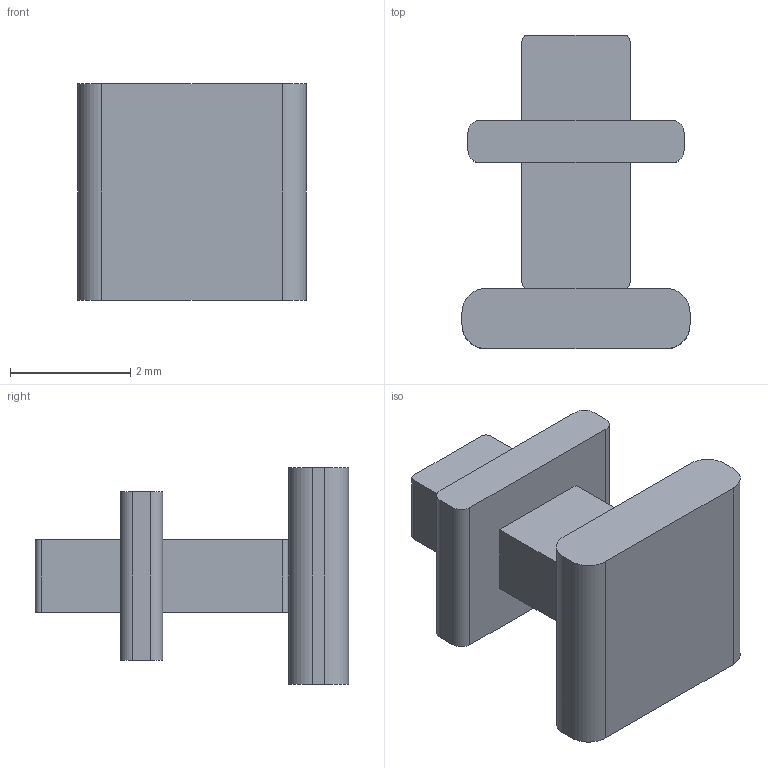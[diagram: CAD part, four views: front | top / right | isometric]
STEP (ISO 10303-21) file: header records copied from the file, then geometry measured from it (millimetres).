
FILE_DESCRIPTION(('Open CASCADE Model'),'2;1');
FILE_NAME('Open CASCADE Shape Model','2026-11-25T12:44:31',('Author'),( 'Open CASCADE'),'Open CASCADE STEP processor 7.9','Open CASCADE 7.9' ,'Unknown');
FILE_SCHEMA(('AUTOMOTIVE_DESIGN { 1 0 10303 214 1 1 1 1 }'));
Length unit declared in the file: millimetre
Products named in the file (1): Open CASCADE STEP translator 7.9 5
Bounding box: 3.8 x 5.22 x 3.6 mm (x, y, z)
Volume: 27.7 mm3; surface area: 84.6 mm2
Topology: 1 solids, 1 shells, 33 faces, 84 edges, 56 vertices
Faces by surface type: plane 21, cylinder 12
Entity records: 2140 total; most frequent: CARTESIAN_POINT 414, DIRECTION 332, LINE 204, VECTOR 204, ORIENTED_EDGE 168, PCURVE 168, DEFINITIONAL_REPRESENTATION 168, EDGE_CURVE 84
